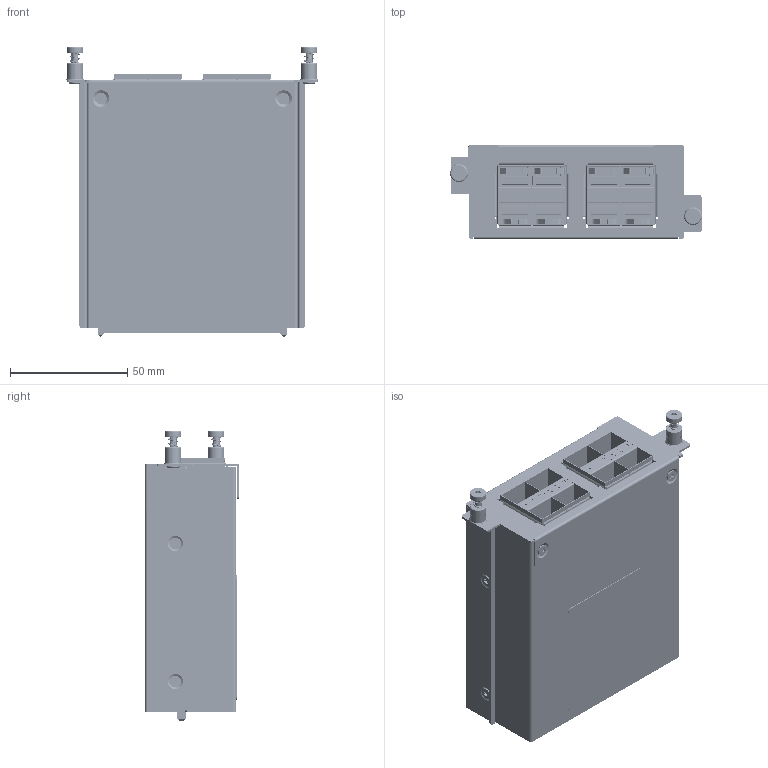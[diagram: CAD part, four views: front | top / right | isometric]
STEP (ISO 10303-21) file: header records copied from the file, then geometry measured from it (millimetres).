
FILE_DESCRIPTION((''),'2;1');
FILE_NAME('RKS_4000_8SFP_ASM_SW0002','2022-06-19T15:39:59',('VicWM_Chen'),('PTC'),'CREO PARAMETRIC BY PTC INC, 2018020','CREO PARAMETRIC BY PTC INC, 2018020','');
FILE_SCHEMA(('AUTOMOTIVE_DESIGN { 1 0 10303 214 1 1 1 1 }'));
Products named in the file (1): RKS_4000_8SFP_ASM_SW0002
Bounding box: 107.6 x 40.1 x 123.8 mm (x, y, z)
Surface area: 144074.7 mm2 (no closed solid volume)
Topology: 0 solids, 277 shells, 5241 faces, 23110 edges, 17298 vertices
Faces by surface type: plane 3448, cylinder 1485, torus 200, cone 83, bspline 21, sphere 4
Entity records: 259234 total; most frequent: CARTESIAN_POINT 54874, DIRECTION 37865, ORIENTED_EDGE 33578, EDGE_CURVE 23106, VERTEX_POINT 17298, VECTOR 16933, LINE 16933, AXIS2_PLACEMENT_3D 10466
